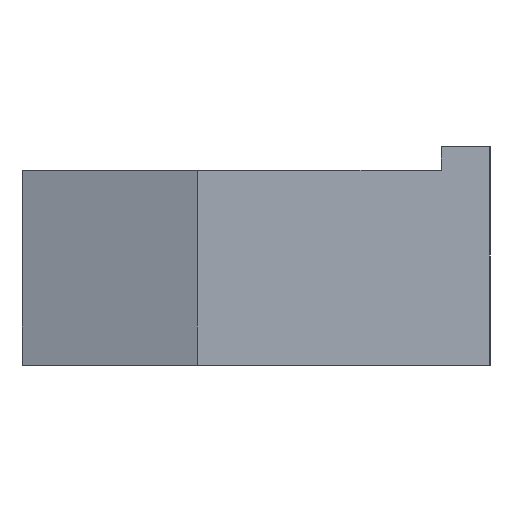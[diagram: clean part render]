
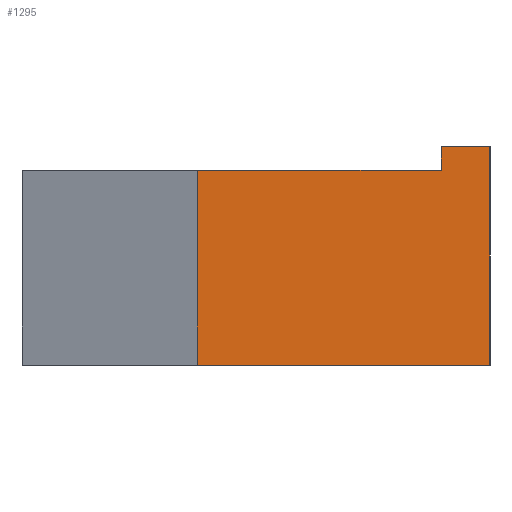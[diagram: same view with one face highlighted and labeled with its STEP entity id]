
A CAD part, left-side view. The second image highlights one B-rep face of the part: STEP entity #1295.
In plain terms, the highlighted planar face has unit normal (-1, 0, 0).
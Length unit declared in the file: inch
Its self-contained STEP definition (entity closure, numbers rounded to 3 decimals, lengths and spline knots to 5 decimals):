
#21 = EDGE_CURVE ( 'NONE', #502, #889, #1231, .T. ) ;
#47 = CARTESIAN_POINT ( 'NONE',  ( 0., 0.0625, 0. ) ) ;
#55 = VECTOR ( 'NONE', #457, 39.37008 ) ;
#173 = VERTEX_POINT ( 'NONE', #47 ) ;
#239 = CARTESIAN_POINT ( 'NONE',  ( 0., 0., -0.25 ) ) ;
#251 = LINE ( 'NONE', #549, #911 ) ;
#265 = EDGE_CURVE ( 'NONE', #889, #173, #875, .T. ) ;
#376 = DIRECTION ( 'NONE',  ( 0., -1., 0. ) ) ;
#423 = CARTESIAN_POINT ( 'NONE',  ( 0., 0., -0.25 ) ) ;
#444 = FACE_OUTER_BOUND ( 'NONE', #535, .T. ) ;
#448 = CARTESIAN_POINT ( 'NONE',  ( 0., 0.375, -0.25 ) ) ;
#450 = VECTOR ( 'NONE', #1088, 39.37008 ) ;
#457 = DIRECTION ( 'NONE',  ( 0., 0., 1. ) ) ;
#502 = VERTEX_POINT ( 'NONE', #1229 ) ;
#535 = EDGE_LOOP ( 'NONE', ( #1724, #858, #1223, #1349, #957, #782 ) ) ;
#549 = CARTESIAN_POINT ( 'NONE',  ( 0., 0., 0.03 ) ) ;
#635 = CARTESIAN_POINT ( 'NONE',  ( 0., 0.0625, 0.03 ) ) ;
#646 = AXIS2_PLACEMENT_3D ( 'NONE', #1697, #1079, #767 ) ;
#697 = DIRECTION ( 'NONE',  ( 0., -1., 0. ) ) ;
#700 = VECTOR ( 'NONE', #697, 39.37008 ) ;
#719 = VERTEX_POINT ( 'NONE', #1002 ) ;
#767 = DIRECTION ( 'NONE',  ( 0., 0., 1. ) ) ;
#782 = ORIENTED_EDGE ( 'NONE', *, *, #265, .F. ) ;
#858 = ORIENTED_EDGE ( 'NONE', *, *, #1143, .T. ) ;
#872 = CARTESIAN_POINT ( 'NONE',  ( 0., 0.375, 0. ) ) ;
#875 = LINE ( 'NONE', #1814, #700 ) ;
#888 = DIRECTION ( 'NONE',  ( 0., 0., 1. ) ) ;
#889 = VERTEX_POINT ( 'NONE', #872 ) ;
#896 = LINE ( 'NONE', #423, #1609 ) ;
#907 = EDGE_CURVE ( 'NONE', #1139, #719, #251, .T. ) ;
#911 = VECTOR ( 'NONE', #1023, 39.37008 ) ;
#957 = ORIENTED_EDGE ( 'NONE', *, *, #1323, .T. ) ;
#1001 = LINE ( 'NONE', #1783, #1491 ) ;
#1002 = CARTESIAN_POINT ( 'NONE',  ( 0., 0., 0.03 ) ) ;
#1023 = DIRECTION ( 'NONE',  ( 0., -1., 0. ) ) ;
#1070 = PLANE ( 'NONE',  #646 ) ;
#1079 = DIRECTION ( 'NONE',  ( -1., 0., 0. ) ) ;
#1088 = DIRECTION ( 'NONE',  ( 0., 0., -1. ) ) ;
#1139 = VERTEX_POINT ( 'NONE', #1157 ) ;
#1143 = EDGE_CURVE ( 'NONE', #502, #2026, #1001, .T. ) ;
#1157 = CARTESIAN_POINT ( 'NONE',  ( 0., 0.0625, 0.03 ) ) ;
#1223 = ORIENTED_EDGE ( 'NONE', *, *, #1478, .T. ) ;
#1229 = CARTESIAN_POINT ( 'NONE',  ( 0., 0.375, -0.25 ) ) ;
#1231 = LINE ( 'NONE', #448, #55 ) ;
#1295 = ADVANCED_FACE ( 'NONE', ( #444 ), #1070, .T. ) ;
#1323 = EDGE_CURVE ( 'NONE', #1139, #173, #1877, .T. ) ;
#1349 = ORIENTED_EDGE ( 'NONE', *, *, #907, .F. ) ;
#1478 = EDGE_CURVE ( 'NONE', #2026, #719, #896, .T. ) ;
#1491 = VECTOR ( 'NONE', #376, 39.37008 ) ;
#1609 = VECTOR ( 'NONE', #888, 39.37008 ) ;
#1697 = CARTESIAN_POINT ( 'NONE',  ( 0., 0., -0.25 ) ) ;
#1724 = ORIENTED_EDGE ( 'NONE', *, *, #21, .F. ) ;
#1783 = CARTESIAN_POINT ( 'NONE',  ( 0., 0., -0.25 ) ) ;
#1814 = CARTESIAN_POINT ( 'NONE',  ( 0., 0., 0. ) ) ;
#1877 = LINE ( 'NONE', #635, #450 ) ;
#2026 = VERTEX_POINT ( 'NONE', #239 ) ;
